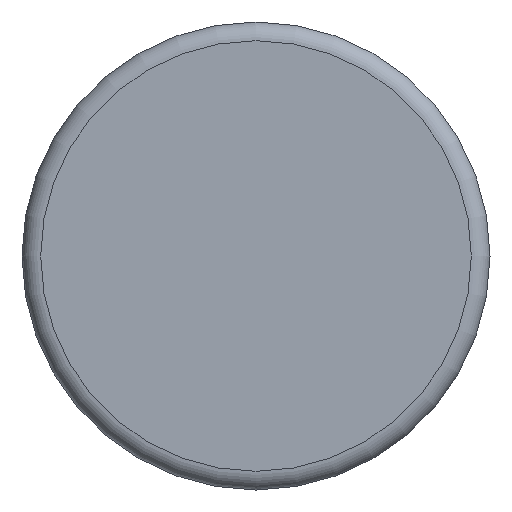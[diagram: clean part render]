
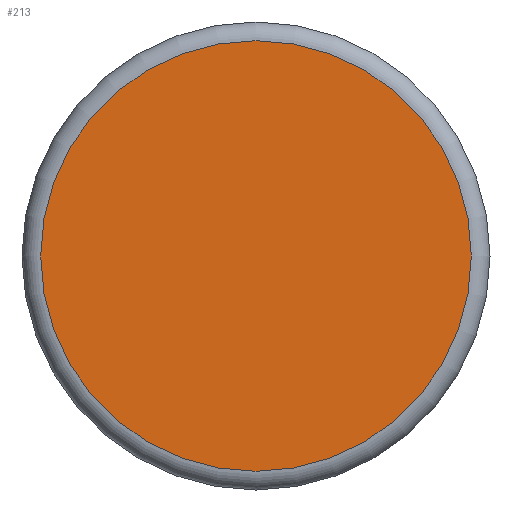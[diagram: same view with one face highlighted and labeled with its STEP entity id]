
A CAD part, front view. The second image highlights one B-rep face of the part: STEP entity #213.
In plain terms, the highlighted planar face has unit normal (0, -1, 0).
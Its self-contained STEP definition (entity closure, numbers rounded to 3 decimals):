
#213 = ADVANCED_FACE( '', ( #407 ), #408, .F. );
#407 = FACE_OUTER_BOUND( '', #589, .T. );
#408 = PLANE( '', #590 );
#589 = EDGE_LOOP( '', ( #920 ) );
#590 = AXIS2_PLACEMENT_3D( '', #921, #922, #923 );
#920 = ORIENTED_EDGE( '', *, *, #1132, .T. );
#921 = CARTESIAN_POINT( '', ( 11.5, 0., 0. ) );
#922 = DIRECTION( '', ( 0., 1., 0. ) );
#923 = DIRECTION( '', ( 0., 0., 1. ) );
#1132 = EDGE_CURVE( '', #1328, #1328, #1329, .T. );
#1328 = VERTEX_POINT( '', #1779 );
#1329 = CIRCLE( '', #1780, 11.5 );
#1779 = CARTESIAN_POINT( '', ( 0., 0., -11.5 ) );
#1780 = AXIS2_PLACEMENT_3D( '', #1911, #1912, #1913 );
#1911 = CARTESIAN_POINT( '', ( 0., 0., 0. ) );
#1912 = DIRECTION( '', ( 0., -1., 0. ) );
#1913 = DIRECTION( '', ( 0., 0., -1. ) );
